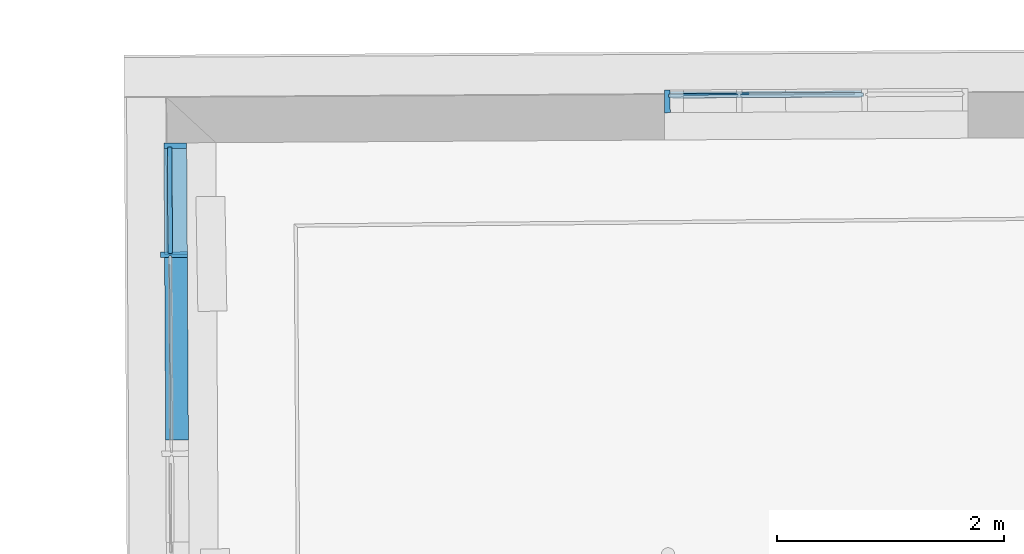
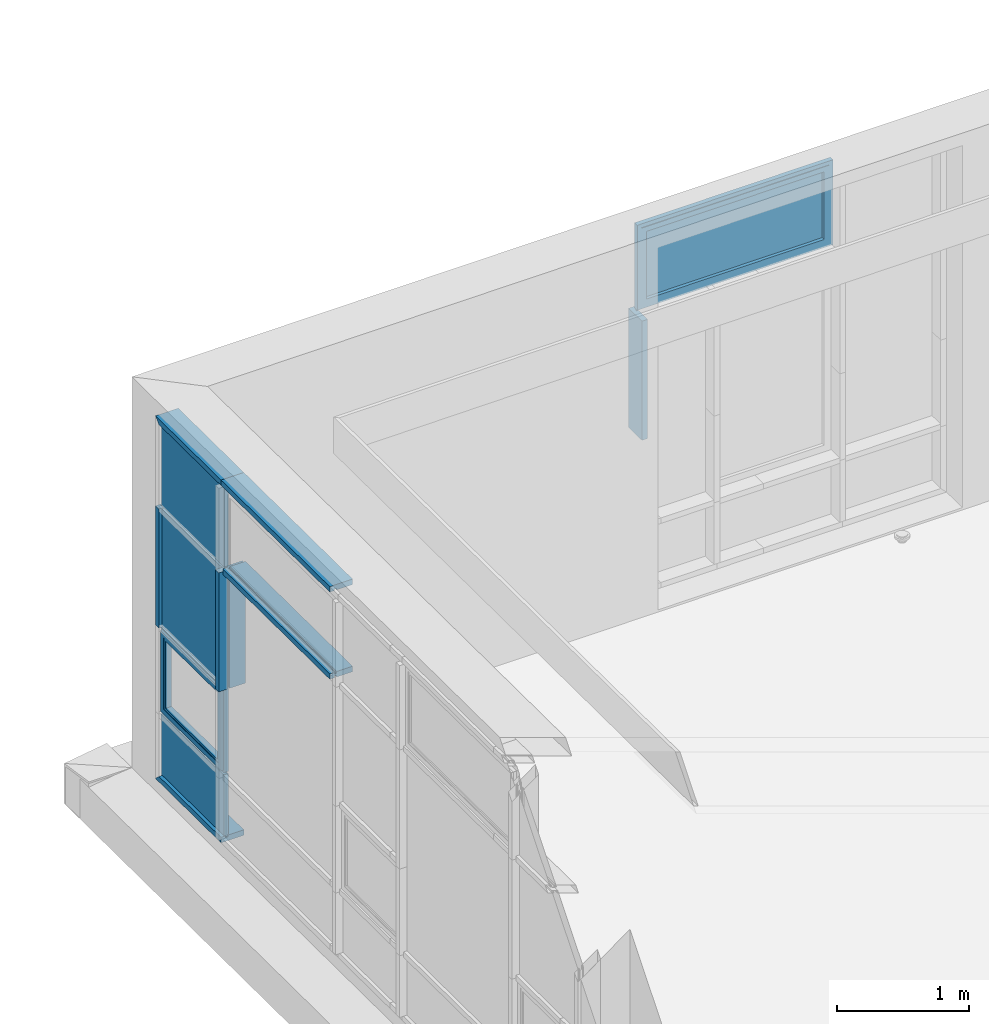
# One storey, part 101 of 158: 13 building element parts, 2 elements without a shape of their own.
"""IFC2X3 building model written with IfcOpenShell, lengths in metres."""

from ifc_helpers import new_model, entity, si_unit, converted_unit, derived_unit, money_unit, direction, frame, origin_with_axes, place, context, subcontext, project, spatial, faceted_brep, material, type_object, element, aggregate, save


model = new_model("IFC2X3")

# Units and contexts
model_context = context("Model", 3, precision=1e-05, world=origin_with_axes(), true_north=direction((0.0, 1.0)))
body_context = subcontext(model_context, "Body", "Model", "MODEL_VIEW")
ifc_project = project(units=[si_unit("LENGTHUNIT", "METRE"), si_unit("AREAUNIT", "SQUARE_METRE"), si_unit("VOLUMEUNIT", "CUBIC_METRE"), converted_unit("PLANEANGLEUNIT", "DEGREE", entity("IfcPlaneAngleMeasure", 0.0174532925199), si_unit("PLANEANGLEUNIT", "RADIAN"), dimensions=[0, 0, 0, 0, 0, 0, 0]), money_unit("EUR"), converted_unit("TIMEUNIT", "Year", entity("IfcTimeMeasure", 31556926.0), si_unit("TIMEUNIT", "SECOND"), dimensions=[0, 0, 1, 0, 0, 0, 0]), si_unit("MASSUNIT", "GRAM", prefix="KILO"), si_unit("THERMODYNAMICTEMPERATUREUNIT", "DEGREE_CELSIUS"), si_unit("LUMINOUSINTENSITYUNIT", "LUMEN"), si_unit("ENERGYUNIT", "JOULE", prefix="MEGA"), derived_unit("THERMALCONDUCTANCEUNIT", [(si_unit("POWERUNIT", "WATT"), 1), (si_unit("LENGTHUNIT", "METRE"), -1), (si_unit("THERMODYNAMICTEMPERATUREUNIT", "KELVIN"), -1)]), derived_unit("SPECIFICHEATCAPACITYUNIT", [(si_unit("ENERGYUNIT", "JOULE"), 1), (si_unit("MASSUNIT", "GRAM", prefix="KILO"), -1), (si_unit("THERMODYNAMICTEMPERATUREUNIT", "KELVIN"), -1)]), derived_unit("MASSDENSITYUNIT", [(si_unit("MASSUNIT", "GRAM", prefix="KILO"), 1), (si_unit("VOLUMEUNIT", "CUBIC_METRE"), -1)])], contexts=[model_context])

# Site, building, storey
site_placement = place(None, origin_with_axes())
site = spatial("IfcSite", under=ifc_project, at=site_placement, Name="Gelände", CompositionType="ELEMENT")
building_placement = place(site_placement, origin_with_axes())
building = spatial("IfcBuilding", under=site, at=building_placement, Name="Gebäude", CompositionType="ELEMENT")
storey_placement = place(building_placement, origin_with_axes())
storey = spatial("IfcBuildingStorey", under=building, at=storey_placement, Name="ERDGESCHOSS", CompositionType="ELEMENT", Elevation=0.0)

# Proxy, building element parts
building_element_proxy_type = type_object("IfcBuildingElementProxyType", Name="Fassadentyp", PredefinedType="NOTDEFINED")
proxy_1_placement = place(storey_placement, frame((-29.8344261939, 53.9291673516, 1.34043902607), z_axis=(0.0, 0.0, 1.0), x_axis=(1.0, 0.0, 0.0)))
proxy_1 = element("IfcBuildingElementProxy", 1, at=proxy_1_placement, inside=storey, type_object=building_element_proxy_type, Name="Fassade-002")
ifc_material_1 = material(Name="53_Metall, Aluminium")
building_element_part_1_placement = place(proxy_1_placement, origin_with_axes())
building_element_part_1 = element("IfcBuildingElementPart", 2, at=building_element_part_1_placement, material=ifc_material_1, Name="53_Metall, Aluminium", context=body_context, shape_type="Brep", body=[
    faceted_brep([(0.996579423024, 0.0358122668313, 2.54500002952), (-0.6878305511, 0.0259892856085, 2.54500002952), (-0.687859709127, 0.0309892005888, 2.54500002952), (0.996550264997, 0.0408121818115, 2.54500002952), (0.951580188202, 0.0355498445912, 2.59000002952), (-0.642831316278, 0.0262517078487, 2.59000002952), (-0.642860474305, 0.0312516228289, 2.59000002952), (0.951551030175, 0.0405497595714, 2.59000002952)], [[[0, 1, 2, 3]], [[0, 4, 5, 1]], [[1, 5, 6, 2]], [[3, 2, 6, 7]], [[4, 0, 3, 7]], [[5, 4, 7, 6]]]),
    faceted_brep([(-0.6878305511, 0.0259892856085, 2.54500002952), (-0.6878305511, 0.0259892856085, 3.29999993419), (-0.687859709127, 0.0309892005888, 3.29999993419), (-0.687859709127, 0.0309892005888, 2.54500002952), (-0.642831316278, 0.0262517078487, 2.59000002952), (-0.642831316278, 0.0262517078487, 3.25499993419), (-0.642860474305, 0.0312516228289, 3.25499993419), (-0.642860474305, 0.0312516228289, 2.59000002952)], [[[0, 1, 2, 3]], [[0, 4, 5, 1]], [[1, 5, 6, 2]], [[3, 2, 6, 7]], [[4, 0, 3, 7]], [[5, 4, 7, 6]]]),
    faceted_brep([(0.996579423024, 0.0358122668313, 3.29999993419), (0.951580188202, 0.0355498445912, 3.25499993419), (0.951551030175, 0.0405497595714, 3.25499993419), (0.996550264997, 0.0408121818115, 3.29999993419), (-0.6878305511, 0.0259892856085, 3.29999993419), (-0.642831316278, 0.0262517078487, 3.25499993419), (-0.642860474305, 0.0312516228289, 3.25499993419), (-0.687859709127, 0.0309892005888, 3.29999993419)], [[[0, 1, 2, 3]], [[0, 4, 5, 1]], [[1, 5, 6, 2]], [[3, 2, 6, 7]], [[4, 0, 3, 7]], [[5, 4, 7, 6]]]),
    faceted_brep([(0.996579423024, 0.0358122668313, 2.54500002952), (0.951580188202, 0.0355498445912, 2.59000002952), (0.951551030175, 0.0405497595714, 2.59000002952), (0.996550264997, 0.0408121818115, 2.54500002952), (0.996579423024, 0.0358122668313, 3.29999993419), (0.951580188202, 0.0355498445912, 3.25499993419), (0.951551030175, 0.0405497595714, 3.25499993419), (0.996550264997, 0.0408121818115, 3.29999993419)], [[[0, 1, 2, 3]], [[0, 4, 5, 1]], [[1, 5, 6, 2]], [[3, 2, 6, 7]], [[4, 0, 3, 7]], [[5, 4, 7, 6]]]),
    faceted_brep([(0.996871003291, -0.014186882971, 2.54500002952), (-0.687538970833, -0.0240098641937, 2.54500002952), (-0.6878305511, 0.0259892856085, 2.54500002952), (0.996579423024, 0.0358122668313, 2.54500002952), (0.97687134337, -0.0143035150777, 2.56500002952), (-0.667539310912, -0.023893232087, 2.56500002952), (-0.667830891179, 0.0261059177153, 2.56500002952), (0.976579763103, 0.0356956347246, 2.56500002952)], [[[0, 1, 2, 3]], [[0, 4, 5, 1]], [[1, 5, 6, 2]], [[3, 2, 6, 7]], [[4, 0, 3, 7]], [[5, 4, 7, 6]]]),
    faceted_brep([(-0.687538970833, -0.0240098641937, 2.54500002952), (-0.687538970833, -0.0240098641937, 3.29999993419), (-0.6878305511, 0.0259892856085, 3.29999993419), (-0.6878305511, 0.0259892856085, 2.54500002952), (-0.667539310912, -0.023893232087, 2.56500002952), (-0.667539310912, -0.023893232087, 3.27999993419), (-0.667830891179, 0.0261059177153, 3.27999993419), (-0.667830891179, 0.0261059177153, 2.56500002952)], [[[0, 1, 2, 3]], [[0, 4, 5, 1]], [[1, 5, 6, 2]], [[3, 2, 6, 7]], [[4, 0, 3, 7]], [[5, 4, 7, 6]]]),
    faceted_brep([(0.996871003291, -0.014186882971, 3.29999993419), (0.97687134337, -0.0143035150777, 3.27999993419), (0.976579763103, 0.0356956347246, 3.27999993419), (0.996579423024, 0.0358122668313, 3.29999993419), (-0.687538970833, -0.0240098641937, 3.29999993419), (-0.667539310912, -0.023893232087, 3.27999993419), (-0.667830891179, 0.0261059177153, 3.27999993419), (-0.6878305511, 0.0259892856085, 3.29999993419)], [[[0, 1, 2, 3]], [[0, 4, 5, 1]], [[1, 5, 6, 2]], [[3, 2, 6, 7]], [[4, 0, 3, 7]], [[5, 4, 7, 6]]]),
    faceted_brep([(0.996871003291, -0.014186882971, 2.54500002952), (0.97687134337, -0.0143035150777, 2.56500002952), (0.976579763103, 0.0356956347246, 2.56500002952), (0.996579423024, 0.0358122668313, 2.54500002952), (0.996871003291, -0.014186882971, 3.29999993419), (0.97687134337, -0.0143035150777, 3.27999993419), (0.976579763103, 0.0356956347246, 3.27999993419), (0.996579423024, 0.0358122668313, 3.29999993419)], [[[0, 1, 2, 3]], [[0, 4, 5, 1]], [[1, 5, 6, 2]], [[3, 2, 6, 7]], [[4, 0, 3, 7]], [[5, 4, 7, 6]]]),
    faceted_brep([(1.01187073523, -0.0140994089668, 2.53000004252), (-0.702538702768, -0.0240973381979, 2.53000004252), (-0.702771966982, 0.0159019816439, 2.53000004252), (1.01163747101, 0.025899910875, 2.53000004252), (0.996871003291, -0.014186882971, 2.54500002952), (-0.687538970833, -0.0240098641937, 2.54500002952), (-0.687772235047, 0.0159894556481, 2.54500002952), (0.996637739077, 0.0258124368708, 2.54500002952)], [[[0, 1, 2, 3]], [[0, 4, 5, 1]], [[1, 5, 6, 2]], [[3, 2, 6, 7]], [[4, 0, 3, 7]], [[5, 4, 7, 6]]]),
    faceted_brep([(-0.702538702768, -0.0240973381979, 2.53000004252), (-0.702538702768, -0.0240973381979, 3.3149999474), (-0.702771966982, 0.0159019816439, 3.3149999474), (-0.702771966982, 0.0159019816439, 2.53000004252), (-0.687538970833, -0.0240098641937, 2.54500002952), (-0.687538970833, -0.0240098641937, 3.29999993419), (-0.687772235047, 0.0159894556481, 3.29999993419), (-0.687772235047, 0.0159894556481, 2.54500002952)], [[[0, 1, 2, 3]], [[0, 4, 5, 1]], [[1, 5, 6, 2]], [[3, 2, 6, 7]], [[4, 0, 3, 7]], [[5, 4, 7, 6]]]),
    faceted_brep([(-0.702538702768, -0.0240973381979, 3.3149999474), (1.01187073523, -0.0140994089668, 3.3149999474), (1.01163747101, 0.025899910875, 3.3149999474), (-0.702771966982, 0.0159019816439, 3.3149999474), (-0.687538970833, -0.0240098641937, 3.29999993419), (0.996871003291, -0.014186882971, 3.29999993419), (0.996637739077, 0.0258124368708, 3.29999993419), (-0.687772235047, 0.0159894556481, 3.29999993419)], [[[0, 1, 2, 3]], [[0, 4, 5, 1]], [[1, 5, 6, 2]], [[3, 2, 6, 7]], [[4, 0, 3, 7]], [[5, 4, 7, 6]]]),
    faceted_brep([(1.01187073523, -0.0140994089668, 3.3149999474), (1.01187073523, -0.0140994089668, 2.53000004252), (1.01163747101, 0.025899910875, 2.53000004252), (1.01163747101, 0.025899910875, 3.3149999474), (0.996871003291, -0.014186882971, 3.29999993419), (0.996871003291, -0.014186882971, 2.54500002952), (0.996637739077, 0.0258124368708, 2.54500002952), (0.996637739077, 0.0258124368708, 3.29999993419)], [[[0, 1, 2, 3]], [[0, 4, 5, 1]], [[1, 5, 6, 2]], [[3, 2, 6, 7]], [[4, 0, 3, 7]], [[5, 4, 7, 6]]]),
    faceted_brep([(0.931580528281, 0.0354332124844, 2.61000002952), (0.931901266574, -0.019565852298, 2.61000002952), (0.931901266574, -0.019565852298, 3.23499993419), (0.931580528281, 0.0354332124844, 3.23499993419), (0.976579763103, 0.0356956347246, 2.56500002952), (0.976900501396, -0.0193034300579, 2.56500002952), (0.976900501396, -0.0193034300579, 3.27999993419), (0.976579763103, 0.0356956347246, 3.27999993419)], [[[0, 1, 2, 3]], [[4, 5, 1, 0]], [[1, 5, 6, 2]], [[3, 2, 6, 7]], [[0, 3, 7, 4]], [[7, 6, 5, 4]]]),
    faceted_brep([(-0.667830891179, 0.0261059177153, 2.56500002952), (-0.667510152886, -0.0288931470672, 2.56500002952), (-0.667510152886, -0.0288931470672, 3.27999993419), (-0.667830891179, 0.0261059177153, 3.27999993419), (-0.622831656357, 0.0263683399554, 2.61000002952), (-0.622510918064, -0.0286307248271, 2.61000002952), (-0.622510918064, -0.0286307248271, 3.23499993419), (-0.622831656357, 0.0263683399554, 3.23499993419)], [[[0, 1, 2, 3]], [[4, 5, 1, 0]], [[1, 5, 6, 2]], [[3, 2, 6, 7]], [[0, 3, 7, 4]], [[7, 6, 5, 4]]]),
    faceted_brep([(-0.667830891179, 0.0261059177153, 2.56500002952), (-0.667510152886, -0.0288931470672, 2.56500002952), (-0.622510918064, -0.0286307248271, 2.61000002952), (-0.622831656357, 0.0263683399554, 2.61000002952), (0.976579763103, 0.0356956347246, 2.56500002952), (0.976900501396, -0.0193034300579, 2.56500002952), (0.931901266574, -0.019565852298, 2.61000002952), (0.931580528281, 0.0354332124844, 2.61000002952)], [[[0, 1, 2, 3]], [[4, 5, 1, 0]], [[1, 5, 6, 2]], [[3, 2, 6, 7]], [[0, 3, 7, 4]], [[7, 6, 5, 4]]]),
    faceted_brep([(0.976579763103, 0.0356956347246, 3.27999993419), (0.976900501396, -0.0193034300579, 3.27999993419), (0.931901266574, -0.019565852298, 3.23499993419), (0.931580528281, 0.0354332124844, 3.23499993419), (-0.667830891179, 0.0261059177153, 3.27999993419), (-0.667510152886, -0.0288931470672, 3.27999993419), (-0.622510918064, -0.0286307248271, 3.23499993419), (-0.622831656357, 0.0263683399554, 3.23499993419)], [[[0, 1, 2, 3]], [[4, 5, 1, 0]], [[1, 5, 6, 2]], [[3, 2, 6, 7]], [[0, 3, 7, 4]], [[7, 6, 5, 4]]]),
])
ifc_material_2 = material(Name="45_Glas, Normalglas")
building_element_part_2_placement = place(proxy_1_placement, origin_with_axes())
building_element_part_2 = element("IfcBuildingElementPart", 3, at=building_element_part_2_placement, material=ifc_material_2, Name="45_Glas, Normalglas", context=body_context, shape_type="Brep", body=[
    faceted_brep([(0.931638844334, 0.025433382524, 2.61000002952), (0.93173215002, 0.00943365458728, 2.61000002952), (-0.622680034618, 0.000368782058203, 2.61000002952), (-0.622773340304, 0.0163685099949, 2.61000002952), (0.931638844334, 0.025433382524, 3.23499993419), (0.93173215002, 0.00943365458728, 3.23499993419), (-0.622680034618, 0.000368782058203, 3.23499993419), (-0.622773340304, 0.0163685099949, 3.23499993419)], [[[0, 1, 2, 3]], [[4, 5, 1, 0]], [[1, 5, 6, 2]], [[3, 2, 6, 7]], [[0, 3, 7, 4]], [[7, 6, 5, 4]]]),
])
building_element_part_3_placement = place(proxy_1_placement, origin_with_axes())
building_element_part_3 = element("IfcBuildingElementPart", 4, at=building_element_part_3_placement, material=ifc_material_1, Name="53_Metall, Aluminium", context=body_context, shape_type="Brep", body=[
    faceted_brep([(-0.702597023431, -0.0140975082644, 2.52000003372), (-0.702713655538, 0.00590215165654, 2.52000003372), (-0.687713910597, 0.00598962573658, 2.52000003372), (-0.687947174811, 0.0459889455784, 2.52000003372), (-0.737946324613, 0.0456973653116, 2.52000003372), (-0.736780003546, -0.154299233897, 2.52000003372), (-0.686780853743, -0.154007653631, 2.52000003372), (-0.68759727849, -0.0140100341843, 2.52000003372), (-0.702597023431, -0.0140975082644, 1.42000003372), (-0.702713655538, 0.00590215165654, 1.42000003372), (-0.687713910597, 0.00598962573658, 1.42000003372), (-0.687947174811, 0.0459889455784, 1.42000003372), (-0.737946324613, 0.0456973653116, 1.42000003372), (-0.736780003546, -0.154299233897, 1.42000003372), (-0.686780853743, -0.154007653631, 1.42000003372), (-0.68759727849, -0.0140100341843, 1.42000003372)], [[[0, 1, 2, 3, 4, 5, 6, 7]], [[1, 0, 8, 9]], [[10, 2, 1, 9]], [[2, 10, 11, 3]], [[12, 4, 3, 11]], [[13, 5, 4, 12]], [[14, 6, 5, 13]], [[15, 7, 6, 14]], [[0, 7, 15, 8]], [[8, 15, 14, 13, 12, 11, 10, 9]]]),
])
aggregate(proxy_1, [building_element_part_1, building_element_part_2, building_element_part_3])

proxy_2_placement = place(storey_placement, frame((-34.889376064, 47.589579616, 1.34043902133), z_axis=(0.0, 0.0, 1.0), x_axis=(1.0, 0.0, 0.0)))
proxy_2 = element("IfcBuildingElementProxy", 5, at=proxy_2_placement, inside=storey, type_object=building_element_proxy_type, Name="Fassade-002")
building_element_part_4_placement = place(proxy_2_placement, origin_with_axes())
building_element_part_4 = element("IfcBuildingElementPart", 6, at=building_element_part_4_placement, material=ifc_material_2, Name="45_Glas, Normalglas", context=body_context, shape_type="Brep", body=[
    faceted_brep([(-0.00901684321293, 4.94766867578, 0.610000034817), (-0.0145154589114, 5.88522780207, 0.610000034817), (-0.0545147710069, 5.88499321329, 0.610000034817), (-0.0490161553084, 4.947434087, 0.610000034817), (-0.00901684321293, 4.94766867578, 0.0349999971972), (-0.0145154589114, 5.88522780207, 0.0349999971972), (-0.0545147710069, 5.88499321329, 0.0349999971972), (-0.0490161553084, 4.947434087, 0.0349999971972)], [[[0, 1, 2, 3]], [[0, 4, 5, 1]], [[1, 5, 6, 2]], [[3, 2, 6, 7]], [[4, 0, 3, 7]], [[5, 4, 7, 6]]]),
])
building_element_part_5_placement = place(proxy_2_placement, origin_with_axes())
building_element_part_5 = element("IfcBuildingElementPart", 7, at=building_element_part_5_placement, material=ifc_material_1, Name="53_Metall, Aluminium", context=body_context, shape_type="Brep", body=[
    faceted_brep([(-0.0644266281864, 5.86993481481, 0.645000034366), (-0.0591039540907, 4.96237517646, 0.645000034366), (-0.0641038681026, 4.96234585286, 0.645000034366), (-0.0694265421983, 5.86990549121, 0.645000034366), (-0.0641627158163, 5.8249355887, 0.690000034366), (-0.0593678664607, 5.00737440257, 0.690000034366), (-0.0643677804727, 5.00734507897, 0.690000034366), (-0.0691626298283, 5.8249062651, 0.690000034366)], [[[0, 1, 2, 3]], [[0, 4, 5, 1]], [[1, 5, 6, 2]], [[3, 2, 6, 7]], [[4, 0, 3, 7]], [[5, 4, 7, 6]]]),
    faceted_brep([(-0.0591039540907, 4.96237517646, 0.645000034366), (-0.0591039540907, 4.96237517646, 1.39500004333), (-0.0641038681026, 4.96234585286, 1.39500004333), (-0.0641038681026, 4.96234585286, 0.645000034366), (-0.0593678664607, 5.00737440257, 0.690000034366), (-0.0593678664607, 5.00737440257, 1.35000004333), (-0.0643677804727, 5.00734507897, 1.35000004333), (-0.0643677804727, 5.00734507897, 0.690000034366)], [[[0, 1, 2, 3]], [[0, 4, 5, 1]], [[1, 5, 6, 2]], [[3, 2, 6, 7]], [[4, 0, 3, 7]], [[5, 4, 7, 6]]]),
    faceted_brep([(-0.0644266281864, 5.86993481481, 1.39500004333), (-0.0641627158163, 5.8249355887, 1.35000004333), (-0.0691626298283, 5.8249062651, 1.35000004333), (-0.0694265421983, 5.86990549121, 1.39500004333), (-0.0591039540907, 4.96237517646, 1.39500004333), (-0.0593678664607, 5.00737440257, 1.35000004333), (-0.0643677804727, 5.00734507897, 1.35000004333), (-0.0641038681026, 4.96234585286, 1.39500004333)], [[[0, 1, 2, 3]], [[0, 4, 5, 1]], [[1, 5, 6, 2]], [[3, 2, 6, 7]], [[4, 0, 3, 7]], [[5, 4, 7, 6]]]),
    faceted_brep([(-0.0644266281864, 5.86993481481, 0.645000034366), (-0.0641627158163, 5.8249355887, 0.690000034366), (-0.0691626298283, 5.8249062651, 0.690000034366), (-0.0694265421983, 5.86990549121, 0.645000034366), (-0.0644266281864, 5.86993481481, 1.39500004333), (-0.0641627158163, 5.8249355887, 1.35000004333), (-0.0691626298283, 5.8249062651, 1.35000004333), (-0.0694265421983, 5.86990549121, 1.39500004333)], [[[0, 1, 2, 3]], [[0, 4, 5, 1]], [[1, 5, 6, 2]], [[3, 2, 6, 7]], [[4, 0, 3, 7]], [[5, 4, 7, 6]]]),
    faceted_brep([(-0.0144274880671, 5.87022805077, 0.645000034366), (-0.00910481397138, 4.96266841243, 0.645000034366), (-0.0591039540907, 4.96237517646, 0.645000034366), (-0.0644266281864, 5.86993481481, 0.645000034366), (-0.0143101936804, 5.85022839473, 0.665000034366), (-0.00922210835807, 4.98266806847, 0.665000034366), (-0.0592212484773, 4.98237483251, 0.665000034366), (-0.0643093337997, 5.84993515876, 0.665000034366)], [[[0, 1, 2, 3]], [[0, 4, 5, 1]], [[1, 5, 6, 2]], [[3, 2, 6, 7]], [[4, 0, 3, 7]], [[5, 4, 7, 6]]]),
    faceted_brep([(-0.00910481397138, 4.96266841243, 0.645000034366), (-0.00910481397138, 4.96266841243, 1.39500004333), (-0.0591039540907, 4.96237517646, 1.39500004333), (-0.0591039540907, 4.96237517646, 0.645000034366), (-0.00922210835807, 4.98266806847, 0.665000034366), (-0.00922210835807, 4.98266806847, 1.37500004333), (-0.0592212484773, 4.98237483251, 1.37500004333), (-0.0592212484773, 4.98237483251, 0.665000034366)], [[[0, 1, 2, 3]], [[0, 4, 5, 1]], [[1, 5, 6, 2]], [[3, 2, 6, 7]], [[4, 0, 3, 7]], [[5, 4, 7, 6]]]),
    faceted_brep([(-0.0144274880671, 5.87022805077, 1.39500004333), (-0.0143101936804, 5.85022839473, 1.37500004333), (-0.0643093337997, 5.84993515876, 1.37500004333), (-0.0644266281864, 5.86993481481, 1.39500004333), (-0.00910481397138, 4.96266841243, 1.39500004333), (-0.00922210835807, 4.98266806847, 1.37500004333), (-0.0592212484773, 4.98237483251, 1.37500004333), (-0.0591039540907, 4.96237517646, 1.39500004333)], [[[0, 1, 2, 3]], [[0, 4, 5, 1]], [[1, 5, 6, 2]], [[3, 2, 6, 7]], [[4, 0, 3, 7]], [[5, 4, 7, 6]]]),
    faceted_brep([(-0.0144274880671, 5.87022805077, 0.645000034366), (-0.0143101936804, 5.85022839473, 0.665000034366), (-0.0643093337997, 5.84993515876, 0.665000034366), (-0.0644266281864, 5.86993481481, 0.645000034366), (-0.0144274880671, 5.87022805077, 1.39500004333), (-0.0143101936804, 5.85022839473, 1.37500004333), (-0.0643093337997, 5.84993515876, 1.37500004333), (-0.0644266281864, 5.86993481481, 1.39500004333)], [[[0, 1, 2, 3]], [[0, 4, 5, 1]], [[1, 5, 6, 2]], [[3, 2, 6, 7]], [[4, 0, 3, 7]], [[5, 4, 7, 6]]]),
    faceted_brep([(-0.0145154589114, 5.88522780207, 0.63000003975), (-0.00901684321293, 4.94766867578, 0.63000003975), (-0.0490161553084, 4.947434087, 0.63000003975), (-0.0545147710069, 5.88499321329, 0.63000003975), (-0.0144274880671, 5.87022805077, 0.645000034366), (-0.00910481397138, 4.96266841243, 0.645000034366), (-0.0491041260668, 4.96243382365, 0.645000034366), (-0.0544268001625, 5.869993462, 0.645000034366)], [[[0, 1, 2, 3]], [[0, 4, 5, 1]], [[1, 5, 6, 2]], [[3, 2, 6, 7]], [[4, 0, 3, 7]], [[5, 4, 7, 6]]]),
    faceted_brep([(-0.00901684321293, 4.94766867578, 0.63000003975), (-0.00901684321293, 4.94766867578, 1.41000003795), (-0.0490161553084, 4.947434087, 1.41000003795), (-0.0490161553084, 4.947434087, 0.63000003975), (-0.00910481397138, 4.96266841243, 0.645000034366), (-0.00910481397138, 4.96266841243, 1.39500004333), (-0.0491041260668, 4.96243382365, 1.39500004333), (-0.0491041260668, 4.96243382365, 0.645000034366)], [[[0, 1, 2, 3]], [[0, 4, 5, 1]], [[1, 5, 6, 2]], [[3, 2, 6, 7]], [[4, 0, 3, 7]], [[5, 4, 7, 6]]]),
    faceted_brep([(-0.00901684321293, 4.94766867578, 1.41000003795), (-0.0145154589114, 5.88522780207, 1.41000003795), (-0.0545147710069, 5.88499321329, 1.41000003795), (-0.0490161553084, 4.947434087, 1.41000003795), (-0.00910481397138, 4.96266841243, 1.39500004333), (-0.0144274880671, 5.87022805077, 1.39500004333), (-0.0544268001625, 5.869993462, 1.39500004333), (-0.0491041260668, 4.96243382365, 1.39500004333)], [[[0, 1, 2, 3]], [[0, 4, 5, 1]], [[1, 5, 6, 2]], [[3, 2, 6, 7]], [[4, 0, 3, 7]], [[5, 4, 7, 6]]]),
    faceted_brep([(-0.0145154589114, 5.88522780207, 1.41000003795), (-0.0145154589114, 5.88522780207, 0.63000003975), (-0.0545147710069, 5.88499321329, 0.63000003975), (-0.0545147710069, 5.88499321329, 1.41000003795), (-0.0144274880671, 5.87022805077, 1.39500004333), (-0.0144274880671, 5.87022805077, 0.645000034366), (-0.0544268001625, 5.869993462, 0.645000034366), (-0.0544268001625, 5.869993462, 1.39500004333)], [[[0, 1, 2, 3]], [[0, 4, 5, 1]], [[1, 5, 6, 2]], [[3, 2, 6, 7]], [[4, 0, 3, 7]], [[5, 4, 7, 6]]]),
    faceted_brep([(-0.0640454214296, 5.80493593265, 0.710000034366), (-0.00904636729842, 5.80525849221, 0.710000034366), (-0.00904636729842, 5.80525849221, 1.33000004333), (-0.0640454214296, 5.80493593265, 1.33000004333), (-0.0643093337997, 5.84993515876, 0.665000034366), (-0.00931027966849, 5.85025771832, 0.665000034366), (-0.00931027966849, 5.85025771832, 1.37500004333), (-0.0643093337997, 5.84993515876, 1.37500004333)], [[[0, 1, 2, 3]], [[4, 5, 1, 0]], [[1, 5, 6, 2]], [[3, 2, 6, 7]], [[0, 3, 7, 4]], [[7, 6, 5, 4]]]),
    faceted_brep([(-0.0592212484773, 4.98237483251, 0.665000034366), (-0.00422219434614, 4.98269739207, 0.665000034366), (-0.00422219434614, 4.98269739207, 1.37500004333), (-0.0592212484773, 4.98237483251, 1.37500004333), (-0.0594851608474, 5.02737405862, 0.710000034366), (-0.0044861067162, 5.02769661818, 0.710000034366), (-0.0044861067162, 5.02769661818, 1.33000004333), (-0.0594851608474, 5.02737405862, 1.33000004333)], [[[0, 1, 2, 3]], [[4, 5, 1, 0]], [[1, 5, 6, 2]], [[3, 2, 6, 7]], [[0, 3, 7, 4]], [[7, 6, 5, 4]]]),
    faceted_brep([(-0.0592212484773, 4.98237483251, 0.665000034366), (-0.00422219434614, 4.98269739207, 0.665000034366), (-0.0044861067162, 5.02769661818, 0.710000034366), (-0.0594851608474, 5.02737405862, 0.710000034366), (-0.0643093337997, 5.84993515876, 0.665000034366), (-0.00931027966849, 5.85025771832, 0.665000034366), (-0.00904636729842, 5.80525849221, 0.710000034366), (-0.0640454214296, 5.80493593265, 0.710000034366)], [[[0, 1, 2, 3]], [[4, 5, 1, 0]], [[1, 5, 6, 2]], [[3, 2, 6, 7]], [[0, 3, 7, 4]], [[7, 6, 5, 4]]]),
    faceted_brep([(-0.0643093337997, 5.84993515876, 1.37500004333), (-0.00931027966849, 5.85025771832, 1.37500004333), (-0.00904636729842, 5.80525849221, 1.33000004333), (-0.0640454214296, 5.80493593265, 1.33000004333), (-0.0592212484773, 4.98237483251, 1.37500004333), (-0.00422219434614, 4.98269739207, 1.37500004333), (-0.0044861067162, 5.02769661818, 1.33000004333), (-0.0594851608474, 5.02737405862, 1.33000004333)], [[[0, 1, 2, 3]], [[4, 5, 1, 0]], [[1, 5, 6, 2]], [[3, 2, 6, 7]], [[0, 3, 7, 4]], [[7, 6, 5, 4]]]),
])
building_element_part_6_placement = place(proxy_2_placement, origin_with_axes())
building_element_part_6 = element("IfcBuildingElementPart", 8, at=building_element_part_6_placement, material=ifc_material_2, Name="45_Glas, Normalglas", context=body_context, shape_type="Brep", body=[
    faceted_brep([(-0.00901684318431, 4.94766867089, 2.51000003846), (-0.014515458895, 5.88522779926, 2.51000003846), (-0.0545147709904, 5.88499321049, 2.51000003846), (-0.0490161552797, 4.94743408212, 2.51000003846), (-0.00901684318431, 4.94766867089, 1.43000003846), (-0.014515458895, 5.88522779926, 1.43000003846), (-0.0545147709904, 5.88499321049, 1.43000003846), (-0.0490161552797, 4.94743408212, 1.43000003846)], [[[0, 1, 2, 3]], [[0, 4, 5, 1]], [[1, 5, 6, 2]], [[3, 2, 6, 7]], [[4, 0, 3, 7]], [[5, 4, 7, 6]]]),
])
building_element_part_7_placement = place(proxy_2_placement, origin_with_axes())
building_element_part_7 = element("IfcBuildingElementPart", 9, at=building_element_part_7_placement, material=ifc_material_2, Name="45_Glas, Normalglas", context=body_context, shape_type="Brep", body=[
    faceted_brep([(-0.00901684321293, 4.94766867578, 3.31499991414), (-0.0145154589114, 5.88522780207, 3.31499991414), (-0.0545147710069, 5.88499321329, 3.31499991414), (-0.0490161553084, 4.947434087, 3.31499991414), (-0.00901684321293, 4.94766867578, 2.53000003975), (-0.0145154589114, 5.88522780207, 2.53000003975), (-0.0545147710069, 5.88499321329, 2.53000003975), (-0.0490161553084, 4.947434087, 2.53000003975)], [[[0, 1, 2, 3]], [[0, 4, 5, 1]], [[1, 5, 6, 2]], [[3, 2, 6, 7]], [[4, 0, 3, 7]], [[5, 4, 7, 6]]]),
])
building_element_part_8_placement = place(proxy_2_placement, origin_with_axes())
building_element_part_8 = element("IfcBuildingElementPart", 10, at=building_element_part_8_placement, material=ifc_material_1, Name="53_Metall, Aluminium", context=body_context, shape_type="Brep", body=[
    faceted_brep([(-0.0245152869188, 5.88516915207, 2.52000003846), (-0.0244273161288, 5.87016941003, 2.52000003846), (0.115570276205, 5.87099047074, 2.52000003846), (0.115277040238, 5.92098961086, 2.52000003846), (-0.0847195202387, 5.91981666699, 2.52000003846), (-0.084426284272, 5.86981752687, 2.52000003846), (-0.0444269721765, 5.87005211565, 2.52000003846), (-0.0445149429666, 5.88505185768, 2.52000003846), (-0.0245152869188, 5.88516915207, 1.42000003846), (-0.0244273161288, 5.87016941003, 1.42000003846), (0.115570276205, 5.87099047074, 1.42000003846), (0.115277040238, 5.92098961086, 1.42000003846), (-0.0847195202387, 5.91981666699, 1.42000003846), (-0.084426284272, 5.86981752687, 1.42000003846), (-0.0444269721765, 5.87005211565, 1.42000003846), (-0.0445149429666, 5.88505185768, 1.42000003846)], [[[0, 1, 2, 3, 4, 5, 6, 7]], [[0, 8, 9, 1]], [[9, 10, 2, 1]], [[10, 11, 3, 2]], [[11, 12, 4, 3]], [[12, 13, 5, 4]], [[6, 5, 13, 14]], [[14, 15, 7, 6]], [[7, 15, 8, 0]], [[8, 15, 14, 13, 12, 11, 10, 9]]]),
])
building_element_part_9_placement = place(proxy_2_placement, origin_with_axes())
building_element_part_9 = element("IfcBuildingElementPart", 11, at=building_element_part_9_placement, material=ifc_material_1, Name="53_Metall, Aluminium", context=body_context, shape_type="Brep", body=[
    faceted_brep([(-0.0189580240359, 4.93761019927, 0.035), (-0.0389576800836, 4.93749290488, 0.035), (-0.0389576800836, 4.93749290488, 0.05), (-0.078956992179, 4.93725831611, 0.05), (-0.078956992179, 4.93725831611, 0.0), (0.121039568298, 4.93843125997, 0.0), (0.121039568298, 4.93843125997, 0.05), (-0.0189580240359, 4.93761019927, 0.05), (-0.0245152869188, 5.88516915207, 0.035), (-0.0445149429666, 5.88505185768, 0.035), (-0.0444269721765, 5.87005211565, 0.05), (-0.084426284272, 5.86981752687, 0.05), (-0.0847195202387, 5.91981666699, 0.0), (0.115277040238, 5.92098961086, 0.0), (0.115570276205, 5.87099047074, 0.05), (-0.0244273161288, 5.87016941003, 0.05)], [[[0, 1, 2, 3, 4, 5, 6, 7]], [[1, 0, 8, 9]], [[10, 2, 1, 9]], [[2, 10, 11, 3]], [[4, 3, 11, 12]], [[5, 4, 12, 13]], [[6, 5, 13, 14]], [[15, 7, 6, 14]], [[0, 7, 15, 8]], [[8, 15, 14, 13, 12, 11, 10, 9]]]),
])
building_element_part_10_placement = place(proxy_2_placement, origin_with_axes())
building_element_part_10 = element("IfcBuildingElementPart", 12, at=building_element_part_10_placement, material=ifc_material_1, Name="53_Metall, Aluminium", context=body_context, shape_type="Brep", body=[
    faceted_brep([(-0.0188993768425, 4.92761037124, 2.52000003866), (-0.0188114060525, 4.91261062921, 2.52000003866), (0.121186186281, 4.91343168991, 2.52000003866), (0.120892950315, 4.96343083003, 2.52000003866), (-0.0191046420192, 4.96260976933, 2.52000003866), (-0.0190166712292, 4.94761002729, 2.52000003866), (-0.0390163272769, 4.9474927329, 2.52000003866), (-0.039104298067, 4.96249247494, 2.52000003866), (-0.114103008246, 4.96205262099, 2.52000003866), (-0.113809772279, 4.91205348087, 2.52000003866), (-0.0388110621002, 4.91249333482, 2.52000003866), (-0.0388990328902, 4.92749307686, 2.52000003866), (-0.0188993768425, 4.92761037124, 1.42000003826), (-0.0188114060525, 4.91261062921, 1.42000003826), (0.121186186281, 4.91343168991, 1.42000003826), (0.120892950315, 4.96343083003, 1.42000003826), (-0.0191046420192, 4.96260976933, 1.42000003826), (-0.0190166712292, 4.94761002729, 1.42000003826), (-0.0390163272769, 4.9474927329, 1.42000003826), (-0.039104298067, 4.96249247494, 1.42000003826), (-0.114103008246, 4.96205262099, 1.42000003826), (-0.113809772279, 4.91205348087, 1.42000003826), (-0.0388110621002, 4.91249333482, 1.42000003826), (-0.0388990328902, 4.92749307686, 1.42000003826)], [[[0, 1, 2, 3, 4, 5, 6, 7, 8, 9, 10, 11]], [[1, 0, 12, 13]], [[1, 13, 14, 2]], [[3, 2, 14, 15]], [[4, 3, 15, 16]], [[4, 16, 17, 5]], [[5, 17, 18, 6]], [[7, 6, 18, 19]], [[19, 20, 8, 7]], [[9, 8, 20, 21]], [[22, 10, 9, 21]], [[11, 10, 22, 23]], [[0, 11, 23, 12]], [[23, 22, 21, 20, 19, 18, 17, 16, 15, 14, 13, 12]]]),
])
building_element_part_11_placement = place(proxy_2_placement, origin_with_axes())
building_element_part_11 = element("IfcBuildingElementPart", 13, at=building_element_part_11_placement, material=ifc_material_1, Name="53_Metall, Aluminium", context=body_context, shape_type="Brep", body=[
    faceted_brep([(-0.0189580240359, 4.93761019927, 3.31499990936), (-0.0189580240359, 4.93761019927, 3.29999990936), (0.121039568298, 4.93843125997, 3.29999990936), (0.121039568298, 4.93843125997, 3.34999990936), (-0.078956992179, 4.93725831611, 3.34999990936), (-0.078956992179, 4.93725831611, 3.29999990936), (-0.0389576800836, 4.93749290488, 3.29999990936), (-0.0389576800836, 4.93749290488, 3.31499990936), (-0.0245152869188, 5.88516915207, 3.31499990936), (-0.0244273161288, 5.87016941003, 3.29999990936), (0.115570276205, 5.87099047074, 3.29999990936), (0.115277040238, 5.92098961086, 3.34999990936), (-0.0847195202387, 5.91981666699, 3.34999990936), (-0.084426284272, 5.86981752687, 3.29999990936), (-0.0444269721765, 5.87005211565, 3.29999990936), (-0.0445149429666, 5.88505185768, 3.31499990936)], [[[0, 1, 2, 3, 4, 5, 6, 7]], [[0, 8, 9, 1]], [[9, 10, 2, 1]], [[2, 10, 11, 3]], [[3, 11, 12, 4]], [[4, 12, 13, 5]], [[6, 5, 13, 14]], [[14, 15, 7, 6]], [[7, 15, 8, 0]], [[8, 15, 14, 13, 12, 11, 10, 9]]]),
])
building_element_part_12_placement = place(proxy_2_placement, origin_with_axes())
building_element_part_12 = element("IfcBuildingElementPart", 14, at=building_element_part_12_placement, material=ifc_material_1, Name="53_Metall, Aluminium", context=body_context, shape_type="Brep", body=[
    faceted_brep([(-0.00940318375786, 3.30843147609, 3.31499990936), (-0.00940318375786, 3.30843147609, 3.29999990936), (0.130594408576, 3.3092525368, 3.29999990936), (0.130594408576, 3.3092525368, 3.34999990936), (-0.069402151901, 3.30807959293, 3.34999990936), (-0.069402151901, 3.30807959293, 3.29999990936), (-0.0294028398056, 3.30831418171, 3.29999990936), (-0.0294028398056, 3.30831418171, 3.31499990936), (-0.0189580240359, 4.93761019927, 3.31499990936), (-0.0189580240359, 4.93761019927, 3.29999990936), (0.121039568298, 4.93843125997, 3.29999990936), (0.121039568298, 4.93843125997, 3.34999990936), (-0.078956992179, 4.93725831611, 3.34999990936), (-0.078956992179, 4.93725831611, 3.29999990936), (-0.0389576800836, 4.93749290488, 3.29999990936), (-0.0389576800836, 4.93749290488, 3.31499990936)], [[[0, 1, 2, 3, 4, 5, 6, 7]], [[0, 8, 9, 1]], [[9, 10, 2, 1]], [[10, 11, 3, 2]], [[11, 12, 4, 3]], [[12, 13, 5, 4]], [[6, 5, 13, 14]], [[14, 15, 7, 6]], [[7, 15, 8, 0]], [[8, 15, 14, 13, 12, 11, 10, 9]]]),
])
building_element_part_13_placement = place(proxy_2_placement, origin_with_axes())
building_element_part_13 = element("IfcBuildingElementPart", 15, at=building_element_part_13_placement, material=ifc_material_1, Name="53_Metall, Aluminium", context=body_context, shape_type="Brep", body=[
    faceted_brep([(-0.00940318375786, 3.30843147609, 2.51000003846), (-0.00940318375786, 3.30843147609, 2.49500003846), (0.130594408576, 3.3092525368, 2.49500003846), (0.130594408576, 3.3092525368, 2.54500003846), (-0.00940318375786, 3.30843147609, 2.54500003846), (-0.00940318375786, 3.30843147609, 2.53000003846), (-0.0294028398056, 3.30831418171, 2.53000003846), (-0.0294028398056, 3.30831418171, 2.54500003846), (-0.069402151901, 3.30807959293, 2.54500003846), (-0.069402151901, 3.30807959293, 2.49500003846), (-0.0294028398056, 3.30831418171, 2.49500003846), (-0.0294028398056, 3.30831418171, 2.51000003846), (-0.0188114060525, 4.91261062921, 2.51000003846), (-0.0188114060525, 4.91261062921, 2.49500003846), (0.121186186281, 4.91343168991, 2.49500003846), (0.121186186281, 4.91343168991, 2.54500003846), (-0.0188114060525, 4.91261062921, 2.54500003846), (-0.0188114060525, 4.91261062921, 2.53000003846), (-0.0388110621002, 4.91249333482, 2.53000003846), (-0.0388110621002, 4.91249333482, 2.54500003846), (-0.0788103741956, 4.91225874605, 2.54500003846), (-0.0788103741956, 4.91225874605, 2.49500003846), (-0.0388110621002, 4.91249333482, 2.49500003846), (-0.0388110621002, 4.91249333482, 2.51000003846)], [[[0, 1, 2, 3, 4, 5, 6, 7, 8, 9, 10, 11]], [[1, 0, 12, 13]], [[1, 13, 14, 2]], [[2, 14, 15, 3]], [[4, 3, 15, 16]], [[4, 16, 17, 5]], [[5, 17, 18, 6]], [[7, 6, 18, 19]], [[19, 20, 8, 7]], [[8, 20, 21, 9]], [[22, 10, 9, 21]], [[11, 10, 22, 23]], [[0, 11, 23, 12]], [[23, 22, 21, 20, 19, 18, 17, 16, 15, 14, 13, 12]]]),
])
aggregate(proxy_2, [building_element_part_4, building_element_part_5, building_element_part_6, building_element_part_7, building_element_part_8, building_element_part_9, building_element_part_10, building_element_part_11, building_element_part_12, building_element_part_13])

save(model, "model.ifc")
